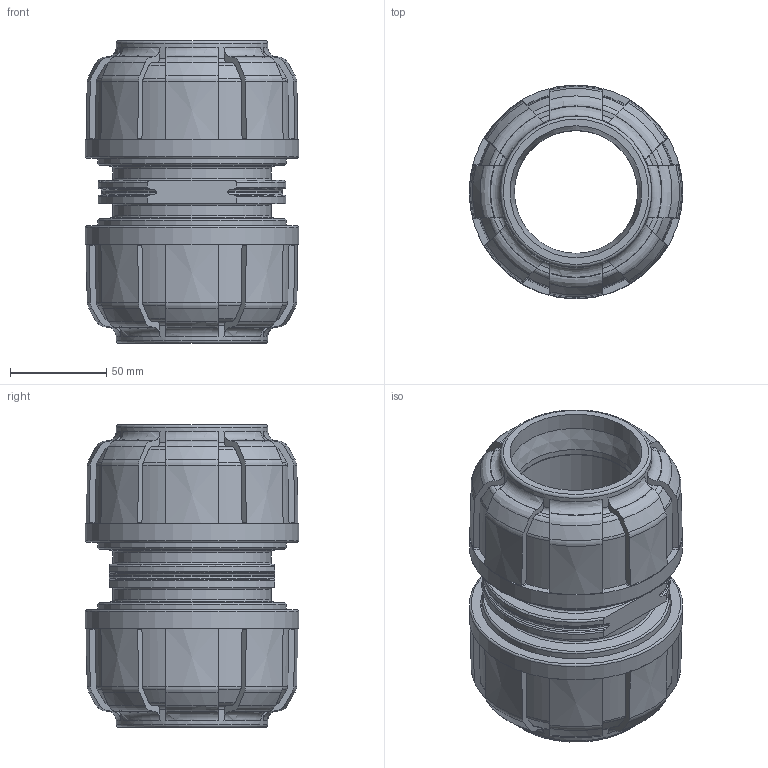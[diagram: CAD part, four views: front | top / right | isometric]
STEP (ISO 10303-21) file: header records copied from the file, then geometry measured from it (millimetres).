
FILE_DESCRIPTION( ( 'STEP AP214' ), '1' );
FILE_NAME( ' ', ' ', ( ' ' ), ( ' ' ), 'PSStep 11.0', 'VISI 17.0', ' ' );
FILE_SCHEMA( ( 'AUTOMOTIVE_DESIGN { 1 0 10303 214 1 1 1 1 }' ) );
Length unit declared in the file: millimetre
Products named in the file (3): 1; 2; 3
Bounding box: 110.9 x 110.9 x 157.09 mm (x, y, z)
Volume: 727028.9 mm3; surface area: 164129 mm2
Topology: 3 solids, 3 shells, 551 faces, 1568 edges, 1041 vertices
Faces by surface type: plane 234, cone 126, torus 126, cylinder 65
Full cylindrical faces by diameter (mm): 63.87 x2, 64.4 x1, 68.449 x2, 82 x2, 85.4 x2, 86 x4, 86.393 x2, 90.9 x2, 91.6 x2, 93 x2, 97.6 x2, 99 x2, 110.9 x2
Entity records: 24768 total; most frequent: CARTESIAN_POINT 7106, ORIENTED_EDGE 2972, DIRECTION 2472, EDGE_CURVE 1486, AXIS2_PLACEMENT_3D 1068, VERTEX_POINT 1016, B_SPLINE_CURVE_WITH_KNOTS 636, EDGE_LOOP 632
